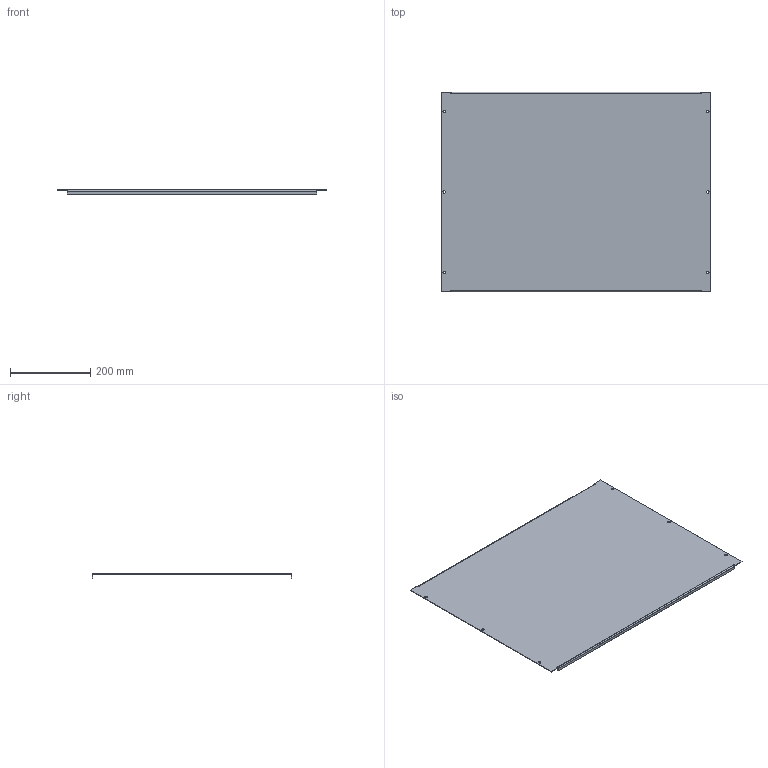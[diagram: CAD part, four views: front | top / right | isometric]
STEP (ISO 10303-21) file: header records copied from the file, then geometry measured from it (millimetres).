
FILE_DESCRIPTION(('STEP AP203'), '1');
FILE_NAME('Ïëàñòðîí ãëóõîé 500õ800 ìì OptiBox M 419418 ÊÝÀÇ', '', ('UNSPECIFIED'), ('UNSPECIFIED'), 'C3D Converter', 'C3D Toolkit', '');
FILE_SCHEMA(('CONFIG_CONTROL_DESIGN'));
Length unit declared in the file: millimetre
Bounding box: 672 x 497 x 10 mm (x, y, z)
Volume: 480388.9 mm3; surface area: 689787.3 mm2
Topology: 1 solids, 1 shells, 40 faces, 98 edges, 60 vertices
Faces by surface type: plane 30, cylinder 10
Full cylindrical faces by diameter (mm): 6.3 x6
Entity records: 1188 total; most frequent: DIRECTION 194, CARTESIAN_POINT 193, ORIENTED_EDGE 184, EDGE_CURVE 92, LINE 72, VECTOR 72, AXIS2_PLACEMENT_3D 61, VERTEX_POINT 60
